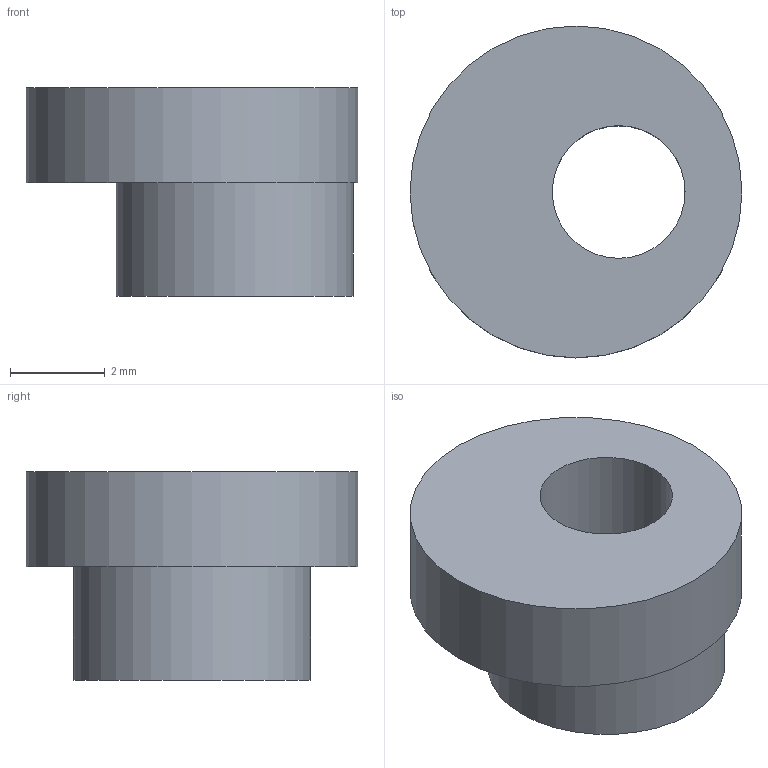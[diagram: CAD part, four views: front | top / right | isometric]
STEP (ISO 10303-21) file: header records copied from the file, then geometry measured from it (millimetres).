
FILE_DESCRIPTION((''),'2;1');
FILE_NAME('K:\Daten\10 Stammdaten Einzelteile\03 Befestigungselemente\00 Allgemein\100300_Befestigungsexzenter 3_01_-.stp','2009-02-25T12:50:06',('kamp'),(''),'Autodesk Inventor 2008','Autodesk Inventor 2008','');
FILE_SCHEMA(('AUTOMOTIVE_DESIGN { 1 0 10303 214 1 1 1 1 }'));
Length unit declared in the file: millimetre
Products named in the file (1): 100300_Befestigungsexzenter 3_01_-
Bounding box: 7 x 7 x 4.4 mm (x, y, z)
Volume: 97 mm3; surface area: 185 mm2
Topology: 1 solids, 1 shells, 6 faces, 9 edges, 6 vertices
Faces by surface type: plane 3, cylinder 3
Full cylindrical faces by diameter (mm): 2.8 x1, 5 x1, 7 x1
Entity records: 154 total; most frequent: DIRECTION 26, CARTESIAN_POINT 19, AXIS2_PLACEMENT_3D 13, ORIENTED_EDGE 12, EDGE_LOOP 12, VERTEX_POINT 6, CIRCLE 6, EDGE_CURVE 6
